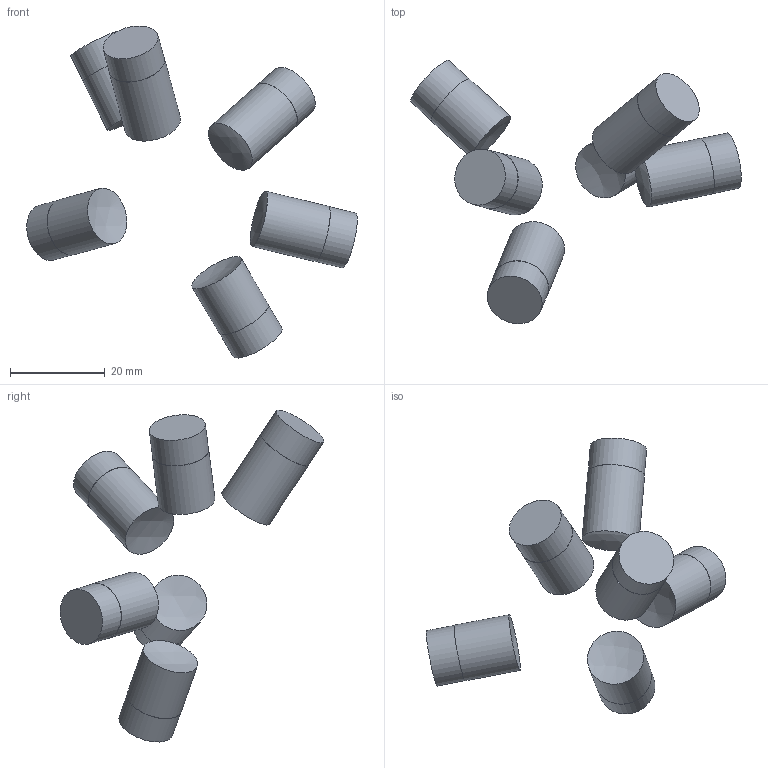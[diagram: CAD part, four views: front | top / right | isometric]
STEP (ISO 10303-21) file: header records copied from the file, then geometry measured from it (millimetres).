
FILE_DESCRIPTION(('Open CASCADE Model'),'2;1');
FILE_NAME('Open CASCADE Shape Model','2026-10-21T12:47:57',('Author'),( 'Open CASCADE'),'Open CASCADE STEP processor 7.9','Open CASCADE 7.9' ,'Unknown');
FILE_SCHEMA(('AUTOMOTIVE_DESIGN { 1 0 10303 214 1 1 1 1 }'));
Length unit declared in the file: millimetre
Products named in the file (1): Open CASCADE STEP translator 7.9 76
Bounding box: 69.73 x 55.64 x 70.03 mm (x, y, z)
Volume: 12651.1 mm3; surface area: 5706.4 mm2
Topology: 5 solids, 5 shells, 29 faces, 41 edges, 28 vertices
Faces by surface type: cylinder 12, plane 12, sphere 5
Full cylindrical faces by diameter (mm): 11.9 x6, 12 x6
Entity records: 1604 total; most frequent: CARTESIAN_POINT 620, DIRECTION 202, ORIENTED_EDGE 86, PCURVE 86, DEFINITIONAL_REPRESENTATION 86, LINE 70, VECTOR 70, AXIS2_PLACEMENT_3D 57
